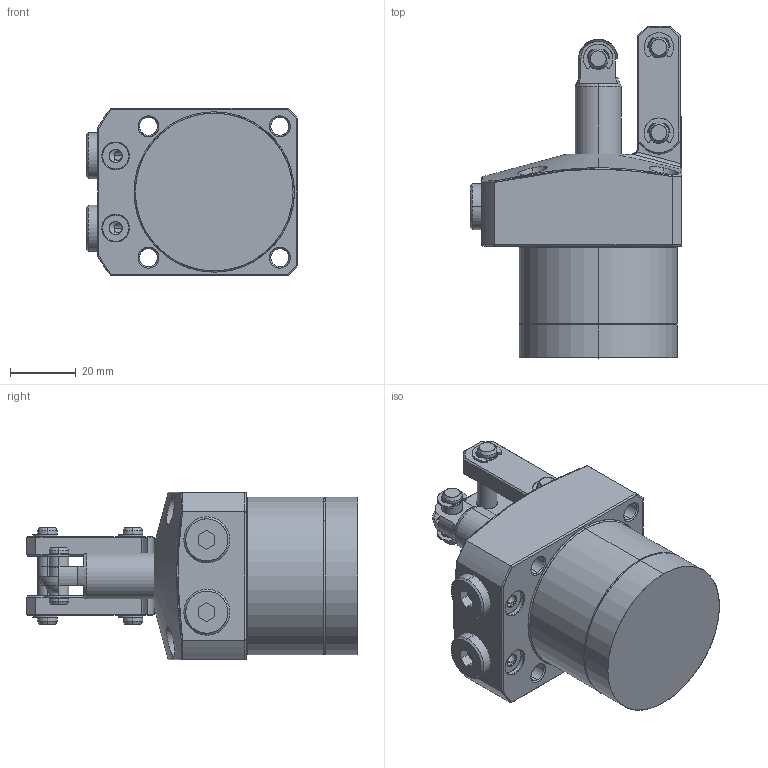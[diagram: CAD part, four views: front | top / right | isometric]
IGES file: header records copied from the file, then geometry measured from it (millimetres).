
Start section: SolidWorks IGES file using analytic representation for surfaces
Global section: file name: D:\abhilash\nijil\cylinder\LKA Series\con v lka\lka48\lk48cc\48CCPT\0402-0481.IGS; native system: SolidWorks 2010; preprocessor: SolidWorks 2010; author: nidheesh; date: 130730.102857; units: millimetre
Bounding box: 64.5 x 101 x 51 mm (x, y, z)
Surface area: 26979 mm2 (no closed solid volume)
Topology: 0 solids, 0 shells, 393 faces, 5084 edges, 5077 vertices
Faces by surface type: bspline 212, revolution 181
